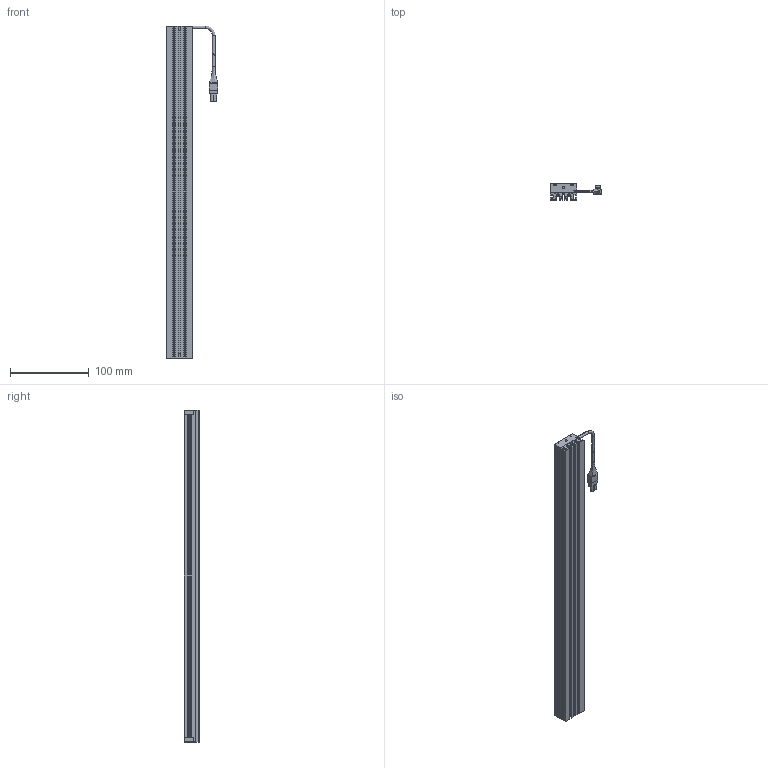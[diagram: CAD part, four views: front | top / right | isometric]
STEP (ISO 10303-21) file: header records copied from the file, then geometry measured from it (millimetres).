
FILE_DESCRIPTION (( 'STEP AP203' ), '1' );
FILE_NAME ('LDL2-410X30GR2.STEP', '2024-10-02T09:32:20', ( 'CCS' ), ( 'シーシーエス株式会社' ), 'SwSTEP 2.0', 'SolidWorks 2022', '' );
FILE_SCHEMA (( 'CONFIG_CONTROL_DESIGN' ));
Length unit declared in the file: millimetre
Products named in the file (7): ブロック30B_LDL2-410X30GR2; ブロック30A_LDL2-410X30GR2; フレーム30_LDL2-410X30GR2; UE01381_LDL2-410X30GR2; LDL2-410X30GR2; BSCA002-N007_M2x12_CAP(三価ｸﾛﾑ黒色); レンズ30_LDL2-410X30GR2
Assembly tree (9 placements, depth 2):
  LDL2-410X30GR2
    フレーム30_LDL2-410X30GR2
    レンズ30_LDL2-410X30GR2
    ブロック30B_LDL2-410X30GR2
    ブロック30A_LDL2-410X30GR2
    BSCA002-N007_M2x12_CAP(三価ｸﾛﾑ黒色)  x4
    UE01381_LDL2-410X30GR2
Bounding box: 65.95 x 20 x 422 mm (x, y, z)
Volume: 220513.3 mm3; surface area: 126434.2 mm2
Topology: 10 solids, 10 shells, 426 faces, 1087 edges, 691 vertices
Faces by surface type: plane 284, cylinder 96, cone 24, torus 18, bspline 4
Entity records: 11461 total; most frequent: CARTESIAN_POINT 1982, ORIENTED_EDGE 1806, DIRECTION 1786, EDGE_CURVE 903, LINE 706, VECTOR 706, VERTEX_POINT 592, AXIS2_PLACEMENT_3D 540
